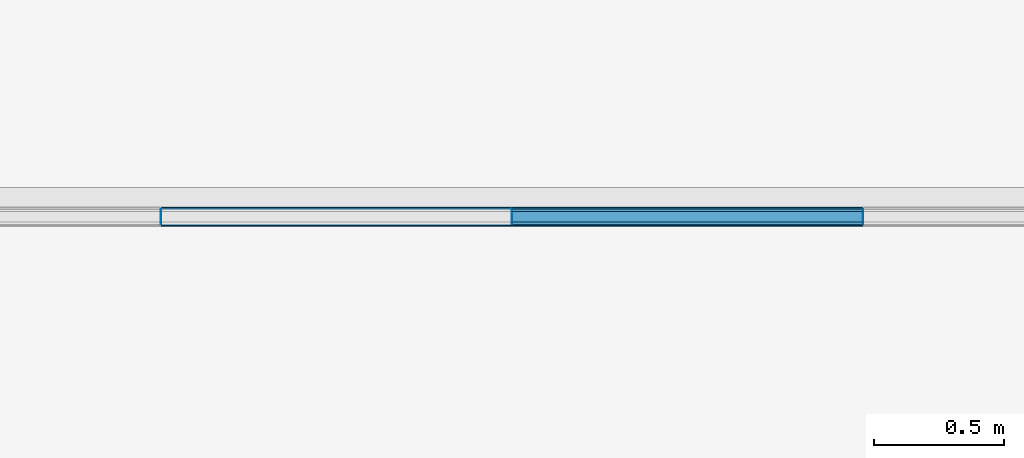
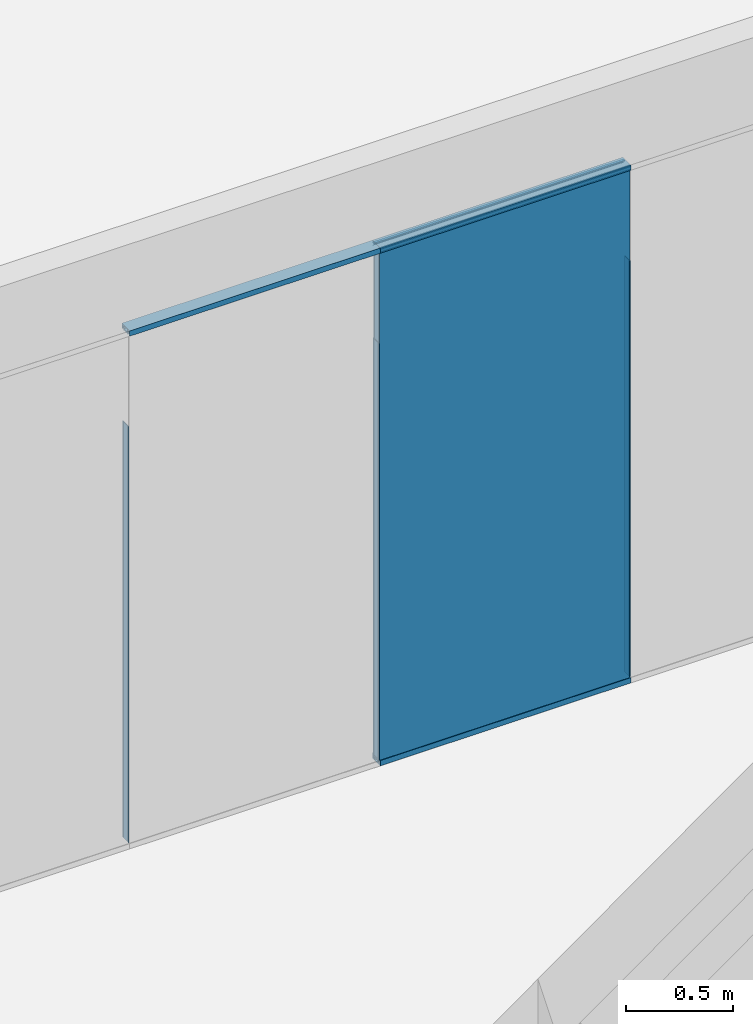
# One storey, part 23 of 89: 14 building element parts, 8 elements without a shape of their own.
"""IFC2X3 building model written with IfcOpenShell, lengths in millimetres."""

import ifcopenshell
import ifcopenshell.guid

model = None  # the IFC model being written
_history = None  # IfcOwnerHistory: only IFC2X3 demands one
_inside = {}  # id of a spatial element -> (the spatial element, [elements in it])
_under = {}  # id of a project, library or spatial element -> (it, [spatial elements below it])
_declared = {}  # id of a project -> (the project, [libraries it declares])
_typed = {}  # id of a type object -> (the type object, [elements of that type])
_made_of = {}  # id of a material, layer set ... -> (it, [elements and type objects made of it])


def new_model(schema):
    """Start an empty IFC model of exactly this schema.

    Asked for "IFC4X3", IfcOpenShell would pick the latest addendum, in which some entities
    have other attributes; the version numbers below select the first issue.
    IFC2X3 requires an IfcOwnerHistory on every rooted entity: one is made here for all.
    """
    global model, _history
    if schema == "IFC4X3":
        model = ifcopenshell.file(schema_version=(4, 3, 0, 0))
    else:
        model = ifcopenshell.file(schema=schema)
    _inside.clear()
    _under.clear()
    _declared.clear()
    _typed.clear()
    _made_of.clear()
    _history = None
    if model.schema == "IFC2X3":
        org = make("IfcOrganization", Name="unknown")
        user = make(
            "IfcPersonAndOrganization",
            ThePerson=make("IfcPerson", FamilyName="unknown"),
            TheOrganization=org,
        )
        app = make(
            "IfcApplication",
            ApplicationDeveloper=org,
            Version="unknown",
            ApplicationFullName="unknown",
            ApplicationIdentifier="unknown",
        )
        _history = make(
            "IfcOwnerHistory",
            OwningUser=user,
            OwningApplication=app,
            ChangeAction="ADDED",
            CreationDate=0,
        )
    return model


def make(cls, **values):
    """One entity of the class cls with the attributes given. An attribute that is None is left unset."""
    return model.create_entity(
        cls, **{name: value for name, value in values.items() if value is not None}
    )


def entity(cls, *values):
    """Any entity or typed value of the class cls, its attributes in the order of the schema. None: left unset."""
    e = model.create_entity(cls)
    for i, value in enumerate(values):
        if value is not None:
            e[i] = value
    return e


def rooted(cls, **values):
    """An entity with a GlobalId (a new one), such as an element, a storey or a relation."""
    return make(cls, GlobalId=ifcopenshell.guid.new(), OwnerHistory=_history, **values)


def si_unit(unit_type, name, prefix=None):
    """IfcSIUnit, for example si_unit("LENGTHUNIT", "METRE", prefix="MILLI")."""
    return make("IfcSIUnit", UnitType=unit_type, Prefix=prefix, Name=name)


def converted_unit(unit_type, name, factor, base, dimensions=None, offset=None):
    """IfcConversionBasedUnit, such as the inch: factor (a typed value) times the base unit."""
    return make(
        "IfcConversionBasedUnit"
        if offset is None
        else "IfcConversionBasedUnitWithOffset",
        ConversionOffset=offset,
        Dimensions=None
        if dimensions is None
        else entity("IfcDimensionalExponents", *dimensions),
        UnitType=unit_type,
        Name=name,
        ConversionFactor=make(
            "IfcMeasureWithUnit", ValueComponent=factor, UnitComponent=base
        ),
    )


def derived_unit(unit_type, elements):
    """IfcDerivedUnit: a product of units, each with its exponent."""
    return make(
        "IfcDerivedUnit",
        Elements=[
            make("IfcDerivedUnitElement", Unit=unit, Exponent=power)
            for unit, power in elements
        ],
        UnitType=unit_type,
    )


def money_unit(currency):
    """IfcMonetaryUnit."""
    return make("IfcMonetaryUnit", Currency=currency)


def assignment(units):
    """IfcUnitAssignment: the units of a project."""
    return None if units is None else make("IfcUnitAssignment", Units=units)


def point(xyz):
    """IfcCartesianPoint."""
    return None if xyz is None else make("IfcCartesianPoint", Coordinates=xyz)


def direction(xyz):
    """IfcDirection."""
    return None if xyz is None else make("IfcDirection", DirectionRatios=xyz)


def frame(location, z_axis=None, x_axis=None):
    """IfcAxis2Placement3D, a coordinate frame: its origin and axes. An axis left out is left unset."""
    return make(
        "IfcAxis2Placement3D",
        Location=point(location),
        Axis=direction(z_axis),
        RefDirection=direction(x_axis),
    )


def origin_with_axes():
    """The frame at (0, 0, 0) with the z axis (0, 0, 1) and the x axis (1, 0, 0) written out."""
    return frame((0.0, 0.0, 0.0), z_axis=(0.0, 0.0, 1.0), x_axis=(1.0, 0.0, 0.0))


def place(relative_to, where):
    """IfcLocalPlacement: puts the frame where relative to a parent placement (None: the world)."""
    return make(
        "IfcLocalPlacement", PlacementRelTo=relative_to, RelativePlacement=where
    )


def context(
    kind, dimensions, precision=None, world=None, true_north=None, identifier=None
):
    """IfcGeometricRepresentationContext, for example the 3D "Model" context."""
    return make(
        "IfcGeometricRepresentationContext",
        ContextIdentifier=identifier,
        ContextType=kind,
        CoordinateSpaceDimension=dimensions,
        Precision=precision,
        WorldCoordinateSystem=world,
        TrueNorth=true_north,
    )


def subcontext(parent, identifier, kind, view, scale=None):
    """IfcGeometricRepresentationSubContext, for example "Body" below "Model"."""
    return make(
        "IfcGeometricRepresentationSubContext",
        ContextIdentifier=identifier,
        ContextType=kind,
        ParentContext=parent,
        TargetScale=scale,
        TargetView=view,
    )


def project(units=None, contexts=None):
    """IfcProject with its units and contexts."""
    return rooted(
        "IfcProject",
        Name="project",
        RepresentationContexts=contexts,
        UnitsInContext=assignment(units),
    )


def spatial(cls, under=None, at=None, **own):
    """A site, building, storey or space (cls), placed at a placement, below another one or the project."""
    s = rooted(cls, ObjectPlacement=at, **own)
    if under is not None:
        _under.setdefault(under.id(), (under, []))[1].append(s)
    return s


def faces_of(points, faces, orient=None, outer=None):
    """IfcFace entities. A face is a list of loops; a loop is a list of indices into points, from 0.

    orient and outer hold one flag for each loop. By default every Orientation is true, the
    first loop of a face is its IfcFaceOuterBound and the others are IfcFaceBound.
    """
    made = []
    for i, loops in enumerate(faces):
        bounds = []
        for j, loop in enumerate(loops):
            is_outer = j == 0 if outer is None else outer[i][j]
            bounds.append(
                make(
                    "IfcFaceOuterBound" if is_outer else "IfcFaceBound",
                    Bound=make("IfcPolyLoop", Polygon=[points[k] for k in loop]),
                    Orientation=True if orient is None else orient[i][j],
                )
            )
        made.append(make("IfcFace", Bounds=bounds))
    return made


def faceted_brep(points, faces, orient=None, outer=None, voids=None):
    """IfcFacetedBrep: a solid bounded by flat faces; with voids (closed shells), ...WithVoids."""
    shared = [point(p) for p in points]
    hull = make("IfcClosedShell", CfsFaces=faces_of(shared, faces, orient, outer))
    if voids is None:
        return make("IfcFacetedBrep", Outer=hull)
    return make(
        "IfcFacetedBrepWithVoids",
        Outer=hull,
        Voids=[
            make(cls, CfsFaces=faces_of(shared, fs, o, b)) for cls, fs, o, b in voids
        ],
    )


def shape(context_of_items, identifier, shape_type, items):
    """IfcShapeRepresentation: the items that make up one representation, for example the "Body"."""
    return make(
        "IfcShapeRepresentation",
        ContextOfItems=context_of_items,
        RepresentationIdentifier=identifier,
        RepresentationType=shape_type,
        Items=items,
    )


def source(mapping_origin, context_of_items, identifier, shape_type, items):
    """IfcRepresentationMap: a shape defined once, which mapped items show again and again."""
    return make(
        "IfcRepresentationMap",
        MappingOrigin=mapping_origin,
        MappedRepresentation=shape(context_of_items, identifier, shape_type, items),
    )


def transform(
    local_origin,
    x_axis=None,
    y_axis=None,
    z_axis=None,
    scale=None,
    scale2=None,
    scale3=None,
    uniform=True,
):
    """IfcCartesianTransformationOperator3D, or its non-uniform kind. x_axis, y_axis, z_axis: its Axis1, 2, 3."""
    if uniform:
        return make(
            "IfcCartesianTransformationOperator3D",
            Axis1=direction(x_axis),
            Axis2=direction(y_axis),
            LocalOrigin=point(local_origin),
            Scale=scale,
            Axis3=direction(z_axis),
        )
    return make(
        "IfcCartesianTransformationOperator3DnonUniform",
        Axis1=direction(x_axis),
        Axis2=direction(y_axis),
        LocalOrigin=point(local_origin),
        Scale=scale,
        Axis3=direction(z_axis),
        Scale2=scale2,
        Scale3=scale3,
    )


def mapped(mapping_source, mapping_target):
    """IfcMappedItem: shows the shape of a source again, moved by a transform."""
    return make(
        "IfcMappedItem", MappingSource=mapping_source, MappingTarget=mapping_target
    )


def material(Name=None, Category=None):
    """IfcMaterial."""
    return make("IfcMaterial", Name=Name, Category=Category)


def made_of(thing, what):
    """Note that an element or type object is made of a material, layer set ...; save() writes the relation."""
    if what is not None:
        _made_of.setdefault(what.id(), (what, []))[1].append(thing)
    return thing


def type_object(cls, material=None, **own):
    """A type object (cls), such as IfcWallType, which elements share."""
    return made_of(rooted(cls, **own), material)


def element(
    cls,
    number,
    at=None,
    inside=None,
    cuts=None,
    type_object=None,
    material=None,
    context=None,
    identifier="Body",
    shape_type=None,
    held_by="IfcProductDefinitionShape",
    body=None,
    shapes=None,
    **own,
):
    """One element of the class cls, such as IfcWall. Its Tag is "e" and its number.

    at: its placement. inside: the storey or other place that contains it. cuts: it is an
    opening in that element (IfcRelVoidsElement). A single representation is given by context,
    identifier, shape_type and body (its items); several are given by shapes. held_by: the class
    of the entity that holds the representations. save() writes the other relations.
    """
    e = rooted(cls, Tag="e%d" % number, ObjectPlacement=at, **own)
    if body is not None:
        shapes = [shape(context, identifier, shape_type, body)]
    if shapes is not None:
        e.Representation = make(held_by, Representations=shapes)
    if inside is not None:
        _inside.setdefault(inside.id(), (inside, []))[1].append(e)
    if cuts is not None:
        rooted(
            "IfcRelVoidsElement", RelatingBuildingElement=cuts, RelatedOpeningElement=e
        )
    if type_object is not None:
        _typed.setdefault(type_object.id(), (type_object, []))[1].append(e)
    return made_of(e, material)


def aggregate(whole, parts):
    """IfcRelAggregates: a whole, such as a stair, and the parts it consists of."""
    return rooted("IfcRelAggregates", RelatingObject=whole, RelatedObjects=parts)


def save(model, path):
    """Write the relations noted so far, then the file.

    IfcRelAggregates (storeys below a building ...), IfcRelContainedInSpatialStructure (elements
    in a storey), IfcRelDefinesByType, IfcRelAssociatesMaterial and IfcRelDeclares: one each for
    every whole, place, type object, material and project.
    """
    for whole, parts in _under.values():
        aggregate(whole, parts)
    for where, things in _inside.values():
        rooted(
            "IfcRelContainedInSpatialStructure",
            RelatedElements=things,
            RelatingStructure=where,
        )
    for kind, things in _typed.values():
        rooted("IfcRelDefinesByType", RelatedObjects=things, RelatingType=kind)
    for what, things in _made_of.values():
        rooted("IfcRelAssociatesMaterial", RelatedObjects=things, RelatingMaterial=what)
    for by, libraries in _declared.values():
        rooted("IfcRelDeclares", RelatingContext=by, RelatedDefinitions=libraries)
    model.write(path)


model = new_model("IFC2X3")

# Units and contexts
model_context = context("Model", 3, precision=0.01, world=origin_with_axes(), true_north=direction((0.0, 1.0)))
body_context = subcontext(model_context, "Body", "Model", "MODEL_VIEW")
ifc_project = project(units=[si_unit("LENGTHUNIT", "METRE", prefix="MILLI"), si_unit("AREAUNIT", "SQUARE_METRE"), si_unit("VOLUMEUNIT", "CUBIC_METRE"), converted_unit("PLANEANGLEUNIT", "DEGREE", entity("IfcPlaneAngleMeasure", 0.0174532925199), si_unit("PLANEANGLEUNIT", "RADIAN"), dimensions=[0, 0, 0, 0, 0, 0, 0]), si_unit("SOLIDANGLEUNIT", "STERADIAN"), money_unit("EUR"), converted_unit("TIMEUNIT", "Year", entity("IfcTimeMeasure", 31556926.0), si_unit("TIMEUNIT", "SECOND"), dimensions=[0, 0, 1, 0, 0, 0, 0]), si_unit("MASSUNIT", "GRAM", prefix="KILO"), si_unit("THERMODYNAMICTEMPERATUREUNIT", "DEGREE_CELSIUS"), si_unit("LUMINOUSINTENSITYUNIT", "LUMEN"), si_unit("ENERGYUNIT", "JOULE", prefix="MEGA"), derived_unit("THERMALCONDUCTANCEUNIT", [(si_unit("POWERUNIT", "WATT"), 1), (si_unit("LENGTHUNIT", "METRE"), -1), (si_unit("THERMODYNAMICTEMPERATUREUNIT", "KELVIN"), -1)]), derived_unit("SPECIFICHEATCAPACITYUNIT", [(si_unit("ENERGYUNIT", "JOULE"), 1), (si_unit("MASSUNIT", "GRAM", prefix="KILO"), -1), (si_unit("THERMODYNAMICTEMPERATUREUNIT", "KELVIN"), -1)]), derived_unit("MASSDENSITYUNIT", [(si_unit("MASSUNIT", "GRAM", prefix="KILO"), 1), (si_unit("VOLUMEUNIT", "CUBIC_METRE"), -1)])], contexts=[model_context])

# Site, building, storey
site_placement = place(None, origin_with_axes())
site = spatial("IfcSite", under=ifc_project, at=site_placement, Name="Puškini 31, Narva", CompositionType="ELEMENT")
building_placement = place(site_placement, origin_with_axes())
building = spatial("IfcBuilding", under=site, at=building_placement, Name="Narva Riigigümnaasium", CompositionType="ELEMENT")
storey_placement = place(building_placement, frame((0.0, 0.0, -3300.0), z_axis=(0.0, 0.0, 1.0), x_axis=(1.0, 0.0, 0.0)))
storey = spatial("IfcBuildingStorey", under=building, at=storey_placement, Name="1.korrus -3.3", CompositionType="ELEMENT", Elevation=-3300.0)

# Curtain wall, members, building element parts, plate
curtain_wall_type = type_object("IfcCurtainWallType", Name="Curtain Wall Type", PredefinedType="NOTDEFINED")
curtain_wall_placement = place(storey_placement, frame((40014.000008, 243997.000057, -9.155864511e-06), z_axis=(0.0, 0.0, 1.0), x_axis=(1.0, 0.0, 0.0)))
curtain_wall = element("IfcCurtainWall", 1, at=curtain_wall_placement, inside=storey, type_object=curtain_wall_type, Name="G-SKLF-09")
member_type_1 = type_object("IfcMemberType", Name="3 x 29", PredefinedType="MULLION")
member_1_placement = place(curtain_wall_placement, frame((763.999992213, 0.0, 0.0), z_axis=(0.0, 0.0, 1.0), x_axis=(-1.0, 0.0, 0.0)))
member_1 = element("IfcMember", 2, at=member_1_placement, type_object=member_type_1, Name="G-SKLF-09-raam", ObjectType="MULLION")
ifc_material_1 = material(Name="Klaas")
shared_shape_1 = source(origin_with_axes(), body_context, "Body", "Brep", [
    faceted_brep([(-1.5000138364, 20.0064497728, 30.0000193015), (1.4999861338, 20.0064497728, 30.0000193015), (1.4999861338, 20.0064497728, 2400.00000716), (-1.5000138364, 20.0064497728, 2400.00000716), (-1.5000138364, 29.0064496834, 30.0000193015), (1.4999861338, 29.0064496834, 30.0000193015), (1.4999861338, 29.0064496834, 2400.00000716), (-1.5000138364, 29.0064496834, 2400.00000716)], [[[0, 1, 2, 3]], [[1, 0, 4, 5]], [[1, 5, 6, 2]], [[2, 6, 7, 3]], [[4, 0, 3, 7]], [[5, 4, 7, 6]]]),
    faceted_brep([(1.4999861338, -28.9935503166, 30.0000193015), (1.4999861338, -19.993550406, 30.0000193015), (1.4999861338, -19.993550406, 2400.00000716), (1.4999861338, -28.9935503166, 2400.00000716), (-1.5000138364, -28.9935503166, 30.0000193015), (-1.5000138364, -19.993550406, 30.0000193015), (-1.5000138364, -19.993550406, 2400.00000716), (-1.5000138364, -28.9935503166, 2400.00000716)], [[[0, 1, 2, 3]], [[1, 0, 4, 5]], [[1, 5, 6, 2]], [[2, 6, 7, 3]], [[4, 0, 3, 7]], [[5, 4, 7, 6]]]),
])
building_element_part_1_placement = place(member_1_placement, origin_with_axes())
building_element_part_1 = element("IfcBuildingElementPart", 3, at=building_element_part_1_placement, material=ifc_material_1, Name="Klaas", context=body_context, shape_type="MappedRepresentation", body=[
    mapped(shared_shape_1, transform((0.0, 0.0, 0.0), x_axis=(-1.0, 0.0, 0.0), y_axis=(0.0, -1.0, 0.0), z_axis=(0.0, 0.0, 1.0))),
])
member_type_2 = type_object("IfcMemberType", Name="3 x 19", PredefinedType="MULLION")
member_2_placement = place(curtain_wall_placement, frame((2113.99999221, 0.0, 0.0), z_axis=(0.0, 0.0, 1.0), x_axis=(-1.0, 0.0, 0.0)))
member_2 = element("IfcMember", 4, at=member_2_placement, type_object=member_type_2, Name="G-SKLF-09-raam", ObjectType="MULLION")
building_element_part_2_placement = place(member_2_placement, origin_with_axes())
building_element_part_2 = element("IfcBuildingElementPart", 5, at=building_element_part_2_placement, material=ifc_material_1, Name="Klaas", context=body_context, shape_type="MappedRepresentation", body=[
    mapped(shared_shape_1, transform((0.0, 0.0, 0.0), x_axis=(-1.0, 0.0, 0.0), y_axis=(0.0, -1.0, 0.0), z_axis=(0.0, 0.0, 1.0))),
])
member_3_placement = place(curtain_wall_placement, frame((3463.99999221, 0.0, 0.0), z_axis=(0.0, 0.0, 1.0), x_axis=(-1.0, 0.0, 0.0)))
member_3 = element("IfcMember", 6, at=member_3_placement, type_object=member_type_2, Name="G-SKLF-09-raam", ObjectType="MULLION")
building_element_part_3_placement = place(member_3_placement, origin_with_axes())
building_element_part_3 = element("IfcBuildingElementPart", 7, at=building_element_part_3_placement, material=ifc_material_1, Name="Klaas", context=body_context, shape_type="MappedRepresentation", body=[
    mapped(shared_shape_1, transform((0.0, 0.0, 0.0), x_axis=(-1.0, 0.0, 0.0), y_axis=(0.0, -1.0, 0.0), z_axis=(0.0, 0.0, 1.0))),
])
ifc_material_2 = material(Name="VKR-06_Õhkvahe")
shared_shape_2 = source(origin_with_axes(), body_context, "Body", "Brep", [
    faceted_brep([(1.4999861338, -19.9935503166, 30.0000193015), (1.4999861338, 20.0064496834, 30.0000193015), (1.4999861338, 20.0064496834, 2400.00000716), (1.4999861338, -19.9935503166, 2400.00000716), (-1.5000138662, -19.9935503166, 30.0000193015), (-1.5000138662, 20.0064496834, 30.0000193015), (-1.5000138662, 20.0064496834, 2400.00000716), (-1.5000138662, -19.9935503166, 2400.00000716)], [[[0, 1, 2, 3]], [[1, 0, 4, 5]], [[1, 5, 6, 2]], [[2, 6, 7, 3]], [[4, 0, 3, 7]], [[5, 4, 7, 6]]]),
])
building_element_part_4_placement = place(member_1_placement, origin_with_axes())
building_element_part_4 = element("IfcBuildingElementPart", 8, at=building_element_part_4_placement, material=ifc_material_2, Name="VKR-06_Õhkvahe", context=body_context, shape_type="MappedRepresentation", body=[
    mapped(shared_shape_2, transform((0.0, 0.0, 0.0), x_axis=(-1.0, 0.0, 0.0), y_axis=(0.0, -1.0, 0.0), z_axis=(0.0, 0.0, 1.0))),
])
aggregate(member_1, [building_element_part_1, building_element_part_4])
building_element_part_5_placement = place(member_2_placement, origin_with_axes())
building_element_part_5 = element("IfcBuildingElementPart", 9, at=building_element_part_5_placement, material=ifc_material_2, Name="VKR-06_Õhkvahe", context=body_context, shape_type="MappedRepresentation", body=[
    mapped(shared_shape_2, transform((0.0, 0.0, 0.0), x_axis=(-1.0, 0.0, 0.0), y_axis=(0.0, -1.0, 0.0), z_axis=(0.0, 0.0, 1.0))),
])
aggregate(member_2, [building_element_part_2, building_element_part_5])
building_element_part_6_placement = place(member_3_placement, origin_with_axes())
building_element_part_6 = element("IfcBuildingElementPart", 10, at=building_element_part_6_placement, material=ifc_material_2, Name="VKR-06_Õhkvahe", context=body_context, shape_type="MappedRepresentation", body=[
    mapped(shared_shape_2, transform((0.0, 0.0, 0.0), x_axis=(-1.0, 0.0, 0.0), y_axis=(0.0, -1.0, 0.0), z_axis=(0.0, 0.0, 1.0))),
])
aggregate(member_3, [building_element_part_3, building_element_part_6])
member_type_3 = type_object("IfcMemberType", Name="30 x -83", PredefinedType="MULLION")
member_4_placement = place(curtain_wall_placement, frame((763.999992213, 0.0, 2950.00000716), z_axis=(1.0, 0.0, 0.0), x_axis=(0.0, 0.0, 1.0)))
member_4 = element("IfcMember", 11, at=member_4_placement, type_object=member_type_3, Name="G-SKLF-51-raam", ObjectType="MULLION")
ifc_material_3 = material(Name="Klaasvill")
shared_shape_3 = source(origin_with_axes(), body_context, "Body", "Brep", [
    faceted_brep([(7.49999990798, 20.000000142, 0.0), (13.8499999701, 20.000000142, 0.0), (13.8499999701, 20.000000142, 1350.0), (7.49999990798, 20.000000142, 1350.0), (7.49999990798, 34.0161444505, 0.0), (13.8499999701, 34.0161444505, 0.0), (13.8499999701, 34.0161444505, 1350.0), (7.49999990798, 34.0161444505, 1350.0)], [[[0, 1, 2, 3]], [[0, 4, 5, 1]], [[1, 5, 6, 2]], [[3, 2, 6, 7]], [[4, 0, 3, 7]], [[5, 4, 7, 6]]]),
    faceted_brep([(24.987414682, 34.0161444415, 0.0), (25.004489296, 32.0307503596, 0.0), (25.004489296, 32.0307503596, 1350.0), (24.987414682, 34.0161444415, 1350.0), (28.5126239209, 34.0161444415, 0.0), (28.7655837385, 33.0385325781, 0.0), (28.4955493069, 32.0307503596, 0.0), (27.75780152, 31.2930025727, 0.0), (26.7500193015, 31.0229681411, 0.0), (25.742237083, 31.2930025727, 0.0), (25.742237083, 31.2930025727, 1350.0), (26.7500193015, 31.0229681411, 1350.0), (27.75780152, 31.2930025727, 1350.0), (28.4955493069, 32.0307503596, 1350.0), (28.7655837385, 33.0385325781, 1350.0), (28.5126239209, 34.0161444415, 1350.0)], [[[0, 1, 2, 3]], [[0, 4, 5, 6, 7, 8, 9, 1]], [[1, 9, 10, 2]], [[3, 2, 10, 11, 12, 13, 14, 15]], [[4, 0, 3, 15]], [[5, 4, 15, 14]], [[6, 5, 14, 13]], [[7, 6, 13, 12]], [[8, 7, 12, 11]], [[9, 8, 11, 10]]]),
    faceted_brep([(7.49999990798, -19.9999997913, 0.0), (7.49999990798, -34.0161445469, 0.0), (7.49999990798, -34.0161445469, 1350.0), (7.49999990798, -19.9999997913, 1350.0), (13.8499999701, -19.9999997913, 0.0), (13.8499999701, -34.0161445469, 0.0), (13.8499999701, -34.0161445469, 1350.0), (13.8499999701, -19.9999997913, 1350.0)], [[[0, 1, 2, 3]], [[0, 4, 5, 1]], [[1, 5, 6, 2]], [[3, 2, 6, 7]], [[4, 0, 3, 7]], [[5, 4, 7, 6]]]),
    faceted_brep([(25.004489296, -32.0307503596, 0.0), (24.987414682, -34.0161444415, 0.0), (24.987414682, -34.0161444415, 1350.0), (25.004489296, -32.0307503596, 1350.0), (25.742237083, -31.2930025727, 0.0), (26.7500193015, -31.0229681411, 0.0), (27.75780152, -31.2930025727, 0.0), (28.4955493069, -32.0307503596, 0.0), (28.7655837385, -33.0385325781, 0.0), (28.5126239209, -34.0161444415, 0.0), (28.5126239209, -34.0161444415, 1350.0), (28.7655837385, -33.0385325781, 1350.0), (28.4955493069, -32.0307503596, 1350.0), (27.75780152, -31.2930025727, 1350.0), (26.7500193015, -31.0229681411, 1350.0), (25.742237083, -31.2930025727, 1350.0)], [[[0, 1, 2, 3]], [[0, 4, 5, 6, 7, 8, 9, 1]], [[1, 9, 10, 2]], [[3, 2, 10, 11, 12, 13, 14, 15]], [[4, 0, 3, 15]], [[5, 4, 15, 14]], [[6, 5, 14, 13]], [[7, 6, 13, 12]], [[8, 7, 12, 11]], [[9, 8, 11, 10]]]),
])
building_element_part_7_placement = place(member_4_placement, origin_with_axes())
building_element_part_7 = element("IfcBuildingElementPart", 12, at=building_element_part_7_placement, material=ifc_material_3, Name="Klaasvill", context=body_context, shape_type="MappedRepresentation", body=[
    mapped(shared_shape_3, transform((0.0, 0.0, 0.0), x_axis=(-1.0, 0.0, 0.0), y_axis=(0.0, -1.0, 0.0), z_axis=(0.0, 0.0, 1.0))),
])
member_5_placement = place(curtain_wall_placement, frame((2113.99999221, 0.0, 2950.00000716), z_axis=(1.0, 0.0, 0.0), x_axis=(0.0, 0.0, 1.0)))
member_5 = element("IfcMember", 13, at=member_5_placement, type_object=member_type_3, Name="G-SKLF-50-raam", ObjectType="MULLION")
building_element_part_8_placement = place(member_5_placement, origin_with_axes())
building_element_part_8 = element("IfcBuildingElementPart", 14, at=building_element_part_8_placement, material=ifc_material_3, Name="Klaasvill", context=body_context, shape_type="MappedRepresentation", body=[
    mapped(shared_shape_3, transform((0.0, 0.0, 0.0), x_axis=(-1.0, 0.0, 0.0), y_axis=(0.0, -1.0, 0.0), z_axis=(0.0, 0.0, 1.0))),
])
ifc_material_4 = material(Name="Teras RAL7012")
shared_shape_4 = source(origin_with_axes(), body_context, "Body", "Brep", [
    faceted_brep([(0.0, -17.0000000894, 0.0), (29.5999996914, -17.0000000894, 0.0), (29.5999996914, -17.0000000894, 1350.0), (0.0, -17.0000000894, 1350.0), (0.0, 17.0000000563, 0.0), (29.5999996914, 17.0000000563, 0.0), (1.9999999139, 15.0000001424, 0.0), (1.9999999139, -15.0000001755, 0.0), (18.7999996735, -15.0000001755, 0.0), (18.7999996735, 15.0000001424, 0.0), (29.5999996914, 17.0000000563, 1350.0), (0.0, 17.0000000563, 1350.0), (1.9999999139, 15.0000001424, 1350.0), (18.7999996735, 15.0000001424, 1350.0), (18.7999996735, -15.0000001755, 1350.0), (1.9999999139, -15.0000001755, 1350.0)], [[[0, 1, 2, 3]], [[0, 4, 5, 1], [6, 7, 8, 9]], [[1, 5, 10, 2]], [[3, 2, 10, 11], [12, 13, 14, 15]], [[4, 0, 3, 11]], [[5, 4, 11, 10]], [[7, 6, 12, 15]], [[8, 7, 15, 14]], [[9, 8, 14, 13]], [[6, 9, 13, 12]]]),
    faceted_brep([(0.0, 17.0, 0.0), (29.5999996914, 17.0000000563, 0.0), (29.5999996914, 17.0000000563, 1350.0), (0.0, 17.0, 1350.0), (0.0, 37.0, 0.0), (30.0000193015, 37.0, 0.0), (30.0000193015, 34.0161444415, 0.0), (28.5126239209, 34.0161444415, 0.0), (24.987414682, 34.0161444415, 0.0), (13.8499999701, 34.0161444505, 0.0), (7.49999999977, 34.0161444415, 0.0), (7.49999999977, 20.0, 0.0), (13.8499999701, 20.000000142, 0.0), (30.0000193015, 20.0, 0.0), (30.0000193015, 17.0, 0.0), (30.0000193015, 17.0, 1350.0), (30.0000193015, 20.0, 1350.0), (13.8499999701, 20.000000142, 1350.0), (7.49999999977, 20.0, 1350.0), (7.49999999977, 34.0161444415, 1350.0), (13.8499999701, 34.0161444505, 1350.0), (24.987414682, 34.0161444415, 1350.0), (28.5126239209, 34.0161444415, 1350.0), (30.0000193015, 34.0161444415, 1350.0), (30.0000193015, 37.0, 1350.0), (0.0, 37.0, 1350.0)], [[[0, 1, 2, 3]], [[0, 4, 5, 6, 7, 8, 9, 10, 11, 12, 13, 14, 1]], [[1, 14, 15, 2]], [[3, 2, 15, 16, 17, 18, 19, 20, 21, 22, 23, 24, 25]], [[4, 0, 3, 25]], [[5, 4, 25, 24]], [[6, 5, 24, 23]], [[7, 6, 23, 22]], [[8, 7, 22, 21]], [[9, 8, 21, 20]], [[10, 9, 20, 19]], [[11, 10, 19, 18]], [[12, 11, 18, 17]], [[13, 12, 17, 16]], [[14, 13, 16, 15]]]),
    faceted_brep([(0.0, -17.0, 0.0), (0.0, -37.0, 0.0), (0.0, -37.0, 1350.0), (0.0, -17.0, 1350.0), (29.5999996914, -17.0000000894, 0.0), (30.0000193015, -17.0, 0.0), (30.0000193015, -20.0, 0.0), (13.8499999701, -19.9999997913, 0.0), (7.49999999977, -20.0, 0.0), (7.49999999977, -34.0161444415, 0.0), (13.8499999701, -34.0161445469, 0.0), (24.987414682, -34.0161444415, 0.0), (28.5126239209, -34.0161444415, 0.0), (30.0000193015, -34.0161444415, 0.0), (30.0000193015, -37.0, 0.0), (30.0000193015, -37.0, 1350.0), (30.0000193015, -34.0161444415, 1350.0), (28.5126239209, -34.0161444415, 1350.0), (24.987414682, -34.0161444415, 1350.0), (13.8499999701, -34.0161445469, 1350.0), (7.49999999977, -34.0161444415, 1350.0), (7.49999999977, -20.0, 1350.0), (13.8499999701, -19.9999997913, 1350.0), (30.0000193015, -20.0, 1350.0), (30.0000193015, -17.0, 1350.0), (29.5999996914, -17.0000000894, 1350.0)], [[[0, 1, 2, 3]], [[0, 4, 5, 6, 7, 8, 9, 10, 11, 12, 13, 14, 1]], [[1, 14, 15, 2]], [[3, 2, 15, 16, 17, 18, 19, 20, 21, 22, 23, 24, 25]], [[4, 0, 3, 25]], [[5, 4, 25, 24]], [[6, 5, 24, 23]], [[7, 6, 23, 22]], [[8, 7, 22, 21]], [[9, 8, 21, 20]], [[10, 9, 20, 19]], [[11, 10, 19, 18]], [[12, 11, 18, 17]], [[13, 12, 17, 16]], [[14, 13, 16, 15]]]),
])
building_element_part_9_placement = place(member_4_placement, origin_with_axes())
building_element_part_9 = element("IfcBuildingElementPart", 15, at=building_element_part_9_placement, material=ifc_material_4, Name="Teras RAL7012", context=body_context, shape_type="MappedRepresentation", body=[
    mapped(shared_shape_4, transform((0.0, 0.0, 0.0), x_axis=(-1.0, 0.0, 0.0), y_axis=(0.0, -1.0, 0.0), z_axis=(0.0, 0.0, 1.0))),
])
aggregate(member_4, [building_element_part_7, building_element_part_9])
building_element_part_10_placement = place(member_5_placement, origin_with_axes())
building_element_part_10 = element("IfcBuildingElementPart", 16, at=building_element_part_10_placement, material=ifc_material_4, Name="Teras RAL7012", context=body_context, shape_type="MappedRepresentation", body=[
    mapped(shared_shape_4, transform((0.0, 0.0, 0.0), x_axis=(-1.0, 0.0, 0.0), y_axis=(0.0, -1.0, 0.0), z_axis=(0.0, 0.0, 1.0))),
])
aggregate(member_5, [building_element_part_8, building_element_part_10])
member_6_placement = place(curtain_wall_placement, frame((2113.99999221, 0.0, 0.0), z_axis=(1.0, 0.0, 0.0), x_axis=(0.0, 0.0, 1.0)))
member_6 = element("IfcMember", 17, at=member_6_placement, type_object=member_type_3, Name="G-SKLF-41-raam", ObjectType="MULLION")
shared_shape_5 = source(origin_with_axes(), body_context, "Body", "Brep", [
    faceted_brep([(-7.49999990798, 20.000000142, 0.0), (-7.49999990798, 20.000000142, 1350.0), (-13.8499999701, 20.000000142, 1350.0), (-13.8499999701, 20.000000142, 0.0), (-7.49999990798, 34.0161444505, 0.0), (-7.49999990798, 34.0161444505, 1350.0), (-13.8499999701, 34.0161444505, 1350.0), (-13.8499999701, 34.0161444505, 0.0)], [[[0, 1, 2, 3]], [[4, 5, 1, 0]], [[1, 5, 6, 2]], [[3, 2, 6, 7]], [[0, 3, 7, 4]], [[7, 6, 5, 4]]]),
    faceted_brep([(-24.987414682, 34.0161444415, 0.0), (-24.987414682, 34.0161444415, 1350.0), (-25.004489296, 32.0307503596, 1350.0), (-25.004489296, 32.0307503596, 0.0), (-28.5126239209, 34.0161444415, 0.0), (-28.5126239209, 34.0161444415, 1350.0), (-28.7655837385, 33.0385325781, 1350.0), (-28.4955493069, 32.0307503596, 1350.0), (-27.75780152, 31.2930025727, 1350.0), (-26.7500193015, 31.0229681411, 1350.0), (-25.742237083, 31.2930025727, 1350.0), (-25.742237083, 31.2930025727, 0.0), (-26.7500193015, 31.0229681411, 0.0), (-27.75780152, 31.2930025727, 0.0), (-28.4955493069, 32.0307503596, 0.0), (-28.7655837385, 33.0385325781, 0.0)], [[[0, 1, 2, 3]], [[4, 5, 1, 0]], [[1, 5, 6, 7, 8, 9, 10, 2]], [[3, 2, 10, 11]], [[0, 3, 11, 12, 13, 14, 15, 4]], [[15, 6, 5, 4]], [[14, 7, 6, 15]], [[13, 8, 7, 14]], [[12, 9, 8, 13]], [[11, 10, 9, 12]]]),
    faceted_brep([(-7.49999990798, -19.9999997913, 0.0), (-7.49999990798, -19.9999997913, 1350.0), (-7.49999990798, -34.0161445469, 1350.0), (-7.49999990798, -34.0161445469, 0.0), (-13.8499999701, -19.9999997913, 0.0), (-13.8499999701, -19.9999997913, 1350.0), (-13.8499999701, -34.0161445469, 1350.0), (-13.8499999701, -34.0161445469, 0.0)], [[[0, 1, 2, 3]], [[4, 5, 1, 0]], [[1, 5, 6, 2]], [[3, 2, 6, 7]], [[0, 3, 7, 4]], [[7, 6, 5, 4]]]),
    faceted_brep([(-25.004489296, -32.0307503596, 0.0), (-25.004489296, -32.0307503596, 1350.0), (-24.987414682, -34.0161444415, 1350.0), (-24.987414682, -34.0161444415, 0.0), (-25.742237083, -31.2930025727, 0.0), (-25.742237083, -31.2930025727, 1350.0), (-26.7500193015, -31.0229681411, 1350.0), (-27.75780152, -31.2930025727, 1350.0), (-28.4955493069, -32.0307503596, 1350.0), (-28.7655837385, -33.0385325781, 1350.0), (-28.5126239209, -34.0161444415, 1350.0), (-28.5126239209, -34.0161444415, 0.0), (-28.7655837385, -33.0385325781, 0.0), (-28.4955493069, -32.0307503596, 0.0), (-27.75780152, -31.2930025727, 0.0), (-26.7500193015, -31.0229681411, 0.0)], [[[0, 1, 2, 3]], [[4, 5, 1, 0]], [[1, 5, 6, 7, 8, 9, 10, 2]], [[3, 2, 10, 11]], [[0, 3, 11, 12, 13, 14, 15, 4]], [[15, 6, 5, 4]], [[14, 7, 6, 15]], [[13, 8, 7, 14]], [[12, 9, 8, 13]], [[11, 10, 9, 12]]]),
])
building_element_part_11_placement = place(member_6_placement, origin_with_axes())
building_element_part_11 = element("IfcBuildingElementPart", 18, at=building_element_part_11_placement, material=ifc_material_3, Name="Klaasvill", context=body_context, shape_type="MappedRepresentation", body=[
    mapped(shared_shape_5, transform((0.0, 0.0, 0.0), x_axis=(-1.0, 0.0, 0.0), y_axis=(0.0, -1.0, 0.0), z_axis=(0.0, 0.0, 1.0))),
])
shared_shape_6 = source(origin_with_axes(), body_context, "Body", "Brep", [
    faceted_brep([(0.0, -17.0000000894, 0.0), (0.0, -17.0000000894, 1350.0), (-29.5999996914, -17.0000000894, 1350.0), (-29.5999996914, -17.0000000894, 0.0), (0.0, 17.0000000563, 0.0), (0.0, 17.0000000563, 1350.0), (-29.5999996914, 17.0000000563, 1350.0), (-1.9999999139, 15.0000001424, 1350.0), (-1.9999999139, -15.0000001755, 1350.0), (-18.7999996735, -15.0000001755, 1350.0), (-18.7999996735, 15.0000001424, 1350.0), (-29.5999996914, 17.0000000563, 0.0), (-1.9999999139, 15.0000001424, 0.0), (-18.7999996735, 15.0000001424, 0.0), (-18.7999996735, -15.0000001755, 0.0), (-1.9999999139, -15.0000001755, 0.0)], [[[0, 1, 2, 3]], [[4, 5, 1, 0]], [[1, 5, 6, 2], [7, 8, 9, 10]], [[3, 2, 6, 11]], [[0, 3, 11, 4], [12, 13, 14, 15]], [[11, 6, 5, 4]], [[15, 8, 7, 12]], [[14, 9, 8, 15]], [[13, 10, 9, 14]], [[12, 7, 10, 13]]]),
    faceted_brep([(0.0, 17.0, 0.0), (0.0, 17.0, 1350.0), (-29.5999996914, 17.0000000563, 1350.0), (-29.5999996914, 17.0000000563, 0.0), (0.0, 37.0, 0.0), (0.0, 37.0, 1350.0), (-30.0000193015, 37.0, 1350.0), (-30.0000193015, 34.0161444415, 1350.0), (-28.5126239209, 34.0161444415, 1350.0), (-24.987414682, 34.0161444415, 1350.0), (-13.8499999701, 34.0161444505, 1350.0), (-7.49999999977, 34.0161444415, 1350.0), (-7.49999999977, 20.0, 1350.0), (-13.8499999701, 20.000000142, 1350.0), (-30.0000193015, 20.0, 1350.0), (-30.0000193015, 17.0, 1350.0), (-30.0000193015, 17.0, 0.0), (-30.0000193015, 20.0, 0.0), (-13.8499999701, 20.000000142, 0.0), (-7.49999999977, 20.0, 0.0), (-7.49999999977, 34.0161444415, 0.0), (-13.8499999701, 34.0161444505, 0.0), (-24.987414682, 34.0161444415, 0.0), (-28.5126239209, 34.0161444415, 0.0), (-30.0000193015, 34.0161444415, 0.0), (-30.0000193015, 37.0, 0.0)], [[[0, 1, 2, 3]], [[4, 5, 1, 0]], [[1, 5, 6, 7, 8, 9, 10, 11, 12, 13, 14, 15, 2]], [[3, 2, 15, 16]], [[0, 3, 16, 17, 18, 19, 20, 21, 22, 23, 24, 25, 4]], [[25, 6, 5, 4]], [[24, 7, 6, 25]], [[23, 8, 7, 24]], [[22, 9, 8, 23]], [[21, 10, 9, 22]], [[20, 11, 10, 21]], [[19, 12, 11, 20]], [[18, 13, 12, 19]], [[17, 14, 13, 18]], [[16, 15, 14, 17]]]),
    faceted_brep([(0.0, -17.0, 0.0), (0.0, -17.0, 1350.0), (0.0, -37.0, 1350.0), (0.0, -37.0, 0.0), (-29.5999996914, -17.0000000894, 0.0), (-29.5999996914, -17.0000000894, 1350.0), (-30.0000193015, -17.0, 1350.0), (-30.0000193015, -20.0, 1350.0), (-13.8499999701, -19.9999997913, 1350.0), (-7.49999999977, -20.0, 1350.0), (-7.49999999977, -34.0161444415, 1350.0), (-13.8499999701, -34.0161445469, 1350.0), (-24.987414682, -34.0161444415, 1350.0), (-28.5126239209, -34.0161444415, 1350.0), (-30.0000193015, -34.0161444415, 1350.0), (-30.0000193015, -37.0, 1350.0), (-30.0000193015, -37.0, 0.0), (-30.0000193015, -34.0161444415, 0.0), (-28.5126239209, -34.0161444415, 0.0), (-24.987414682, -34.0161444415, 0.0), (-13.8499999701, -34.0161445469, 0.0), (-7.49999999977, -34.0161444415, 0.0), (-7.49999999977, -20.0, 0.0), (-13.8499999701, -19.9999997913, 0.0), (-30.0000193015, -20.0, 0.0), (-30.0000193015, -17.0, 0.0)], [[[0, 1, 2, 3]], [[4, 5, 1, 0]], [[1, 5, 6, 7, 8, 9, 10, 11, 12, 13, 14, 15, 2]], [[3, 2, 15, 16]], [[0, 3, 16, 17, 18, 19, 20, 21, 22, 23, 24, 25, 4]], [[25, 6, 5, 4]], [[24, 7, 6, 25]], [[23, 8, 7, 24]], [[22, 9, 8, 23]], [[21, 10, 9, 22]], [[20, 11, 10, 21]], [[19, 12, 11, 20]], [[18, 13, 12, 19]], [[17, 14, 13, 18]], [[16, 15, 14, 17]]]),
])
building_element_part_12_placement = place(member_6_placement, origin_with_axes())
building_element_part_12 = element("IfcBuildingElementPart", 19, at=building_element_part_12_placement, material=ifc_material_4, Name="Teras RAL7012", context=body_context, shape_type="MappedRepresentation", body=[
    mapped(shared_shape_6, transform((0.0, 0.0, 0.0), x_axis=(-1.0, 0.0, 0.0), y_axis=(0.0, -1.0, 0.0), z_axis=(0.0, 0.0, 1.0))),
])
aggregate(member_6, [building_element_part_11, building_element_part_12])
plate_type = type_object("IfcPlateType", Name="Siseklaasfassaad - Klaas 1347 x 535 x 10", PredefinedType="CURTAIN_PANEL")
plate_placement = place(curtain_wall_placement, frame((2788.99999221, 0.0, 1783.33333811), z_axis=(0.0, 0.0, 1.0), x_axis=(-1.0, 0.0, 0.0)))
plate = element("IfcPlate", 20, at=plate_placement, type_object=plate_type, Name="G-SKLF-09-klaas", ObjectType="CURTAIN_PANEL")
aggregate(curtain_wall, [member_1, member_6, member_2, member_3, member_4, member_5, plate])
ifc_material_5 = material(Name="VKR-05_Klaas")
shared_shape_7 = source(origin_with_axes(), body_context, "Body", "Brep", [
    faceted_brep([(-1348.50001817, 2935.00001532, -29.0), (-1348.50001817, 2935.00001532, -20.0), (-1.49999478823, 2935.00001532, -20.0), (-1.49999478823, 2935.00001532, -29.0), (-1348.50001817, 14.9999918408, -29.0), (-1348.50001817, 14.9999918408, -20.0), (-1.49999478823, 14.9999918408, -20.0), (-1.49999478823, 14.9999918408, -29.0)], [[[0, 1, 2, 3]], [[4, 5, 1, 0]], [[1, 5, 6, 2]], [[3, 2, 6, 7]], [[0, 3, 7, 4]], [[7, 6, 5, 4]]]),
    faceted_brep([(-1348.50001817, 2935.00001532, 20.0), (-1348.50001817, 2935.00001532, 29.0), (-1.49999478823, 2935.00001532, 29.0), (-1.49999478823, 2935.00001532, 20.0), (-1348.50001817, 14.9999918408, 20.0), (-1348.50001817, 14.9999918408, 29.0), (-1.49999478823, 14.9999918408, 29.0), (-1.49999478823, 14.9999918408, 20.0)], [[[0, 1, 2, 3]], [[4, 5, 1, 0]], [[1, 5, 6, 2]], [[3, 2, 6, 7]], [[0, 3, 7, 4]], [[7, 6, 5, 4]]]),
])
building_element_part_13_placement = place(plate_placement, origin_with_axes())
building_element_part_13 = element("IfcBuildingElementPart", 21, at=building_element_part_13_placement, material=ifc_material_5, Name="VKR-05_Klaas", context=body_context, shape_type="MappedRepresentation", body=[
    mapped(shared_shape_7, transform((675.0, 0.0, -1783.33333811), x_axis=(1.0, 0.0, 0.0), y_axis=(0.0, 0.0, 1.0), z_axis=(0.0, -1.0, 0.0))),
])
shared_shape_8 = source(origin_with_axes(), body_context, "Body", "Brep", [
    faceted_brep([(-1348.50001817, 2935.00001532, -20.0), (-1348.50001817, 2935.00001532, 20.0), (-1.49999478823, 2935.00001532, 20.0), (-1.49999478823, 2935.00001532, -20.0), (-1348.50001817, 14.9999918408, -20.0), (-1348.50001817, 14.9999918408, 20.0), (-1.49999478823, 14.9999918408, 20.0), (-1.49999478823, 14.9999918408, -20.0)], [[[0, 1, 2, 3]], [[4, 5, 1, 0]], [[1, 5, 6, 2]], [[3, 2, 6, 7]], [[0, 3, 7, 4]], [[7, 6, 5, 4]]]),
])
building_element_part_14_placement = place(plate_placement, origin_with_axes())
building_element_part_14 = element("IfcBuildingElementPart", 22, at=building_element_part_14_placement, material=ifc_material_2, Name="VKR-06_Õhkvahe", context=body_context, shape_type="MappedRepresentation", body=[
    mapped(shared_shape_8, transform((675.0, 0.0, -1783.33333811), x_axis=(1.0, 0.0, 0.0), y_axis=(0.0, 0.0, 1.0), z_axis=(0.0, -1.0, 0.0))),
])
aggregate(plate, [building_element_part_13, building_element_part_14])

save(model, "model.ifc")
